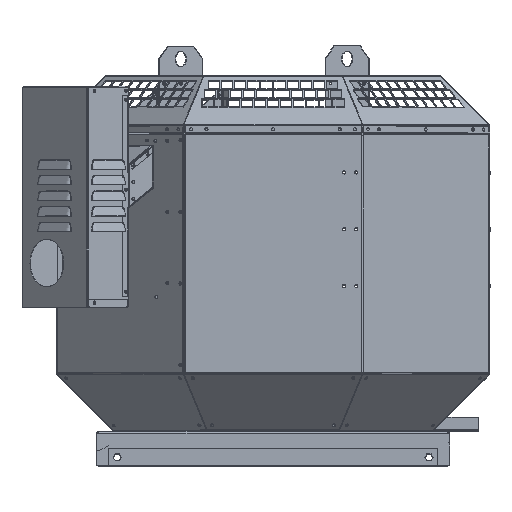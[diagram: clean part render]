
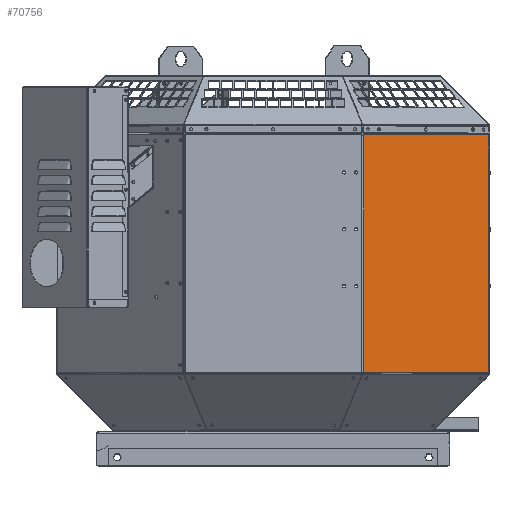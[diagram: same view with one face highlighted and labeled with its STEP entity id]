
A CAD part, top view. The second image highlights one B-rep face of the part: STEP entity #70756.
In plain terms, the highlighted planar face has unit normal (0.707, 0, 0.707).
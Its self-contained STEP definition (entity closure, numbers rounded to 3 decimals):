
#588 = FACE_OUTER_BOUND ( 'NONE', #69426, .T. ) ;
#1300 = CARTESIAN_POINT ( 'NONE',  ( 283.563, 422.402, 118.781 ) ) ;
#3228 = EDGE_CURVE ( 'NONE', #79659, #5971, #84125, .T. ) ;
#5442 = DIRECTION ( 'NONE',  ( 0., -1., 0. ) ) ;
#5971 = VERTEX_POINT ( 'NONE', #67324 ) ;
#6068 = PLANE ( 'NONE',  #79792 ) ;
#6882 = LINE ( 'NONE', #20436, #61784 ) ;
#6914 = EDGE_CURVE ( 'NONE', #39032, #79659, #77638, .T. ) ;
#8099 = CARTESIAN_POINT ( 'NONE',  ( 119.099, 408.402, 283.245 ) ) ;
#8659 = DIRECTION ( 'NONE',  ( -0.707, 0., 0.707 ) ) ;
#10214 = CARTESIAN_POINT ( 'NONE',  ( 283.245, 408.402, 119.099 ) ) ;
#13060 = DIRECTION ( 'NONE',  ( 0., 1., 0. ) ) ;
#14270 = ORIENTED_EDGE ( 'NONE', *, *, #3228, .T. ) ;
#16476 = EDGE_CURVE ( 'NONE', #88550, #36376, #27978, .T. ) ;
#16878 = DIRECTION ( 'NONE',  ( 0.707, 0., -0.707 ) ) ;
#20436 = CARTESIAN_POINT ( 'NONE',  ( 119.099, 422.402, 283.245 ) ) ;
#21059 = CARTESIAN_POINT ( 'NONE',  ( 284.207, 422.402, 118.137 ) ) ;
#22633 = VECTOR ( 'NONE', #54974, 1000. ) ;
#25172 = CARTESIAN_POINT ( 'NONE',  ( 283.563, 408.402, 118.781 ) ) ;
#25640 = VECTOR ( 'NONE', #57811, 1000. ) ;
#27735 = ORIENTED_EDGE ( 'NONE', *, *, #96748, .F. ) ;
#27828 = LINE ( 'NONE', #8099, #45352 ) ;
#27978 = LINE ( 'NONE', #72905, #25640 ) ;
#28556 = DIRECTION ( 'NONE',  ( 0.707, 0., -0.707 ) ) ;
#29386 = EDGE_CURVE ( 'NONE', #39032, #36609, #76614, .T. ) ;
#30475 = VECTOR ( 'NONE', #8659, 1000. ) ;
#33573 = EDGE_CURVE ( 'NONE', #36609, #36376, #93449, .T. ) ;
#34921 = EDGE_CURVE ( 'NONE', #69259, #88550, #27828, .T. ) ;
#36376 = VERTEX_POINT ( 'NONE', #68658 ) ;
#36609 = VERTEX_POINT ( 'NONE', #55888 ) ;
#36792 = VECTOR ( 'NONE', #45983, 1000. ) ;
#39032 = VERTEX_POINT ( 'NONE', #25172 ) ;
#39558 = CARTESIAN_POINT ( 'NONE',  ( 119.099, 410.409, 283.245 ) ) ;
#44175 = LINE ( 'NONE', #54133, #81579 ) ;
#45352 = VECTOR ( 'NONE', #90391, 1000. ) ;
#45863 = CARTESIAN_POINT ( 'NONE',  ( 284.207, 97.802, 118.137 ) ) ;
#45983 = DIRECTION ( 'NONE',  ( 0., -1., 0. ) ) ;
#47718 = CARTESIAN_POINT ( 'NONE',  ( 283.245, 408.402, 119.099 ) ) ;
#50825 = EDGE_CURVE ( 'NONE', #74172, #69259, #6882, .T. ) ;
#54133 = CARTESIAN_POINT ( 'NONE',  ( 284.207, 410.409, 118.137 ) ) ;
#54974 = DIRECTION ( 'NONE',  ( -0.707, 0., 0.707 ) ) ;
#55888 = CARTESIAN_POINT ( 'NONE',  ( 283.563, 97.802, 118.781 ) ) ;
#57811 = DIRECTION ( 'NONE',  ( 0., -1., 0. ) ) ;
#59964 = ORIENTED_EDGE ( 'NONE', *, *, #6914, .T. ) ;
#61784 = VECTOR ( 'NONE', #5442, 1000. ) ;
#64270 = VECTOR ( 'NONE', #13060, 1000. ) ;
#65212 = ORIENTED_EDGE ( 'NONE', *, *, #29386, .F. ) ;
#67324 = CARTESIAN_POINT ( 'NONE',  ( 283.245, 410.409, 119.099 ) ) ;
#68658 = CARTESIAN_POINT ( 'NONE',  ( 118.781, 97.802, 283.563 ) ) ;
#69259 = VERTEX_POINT ( 'NONE', #75570 ) ;
#69426 = EDGE_LOOP ( 'NONE', ( #27735, #95162, #73347, #87432, #83036, #65212, #59964, #14270 ) ) ;
#69546 = CARTESIAN_POINT ( 'NONE',  ( 118.781, 408.402, 283.563 ) ) ;
#70756 = ADVANCED_FACE ( 'NONE', ( #588 ), #6068, .T. ) ;
#72905 = CARTESIAN_POINT ( 'NONE',  ( 118.781, 422.402, 283.563 ) ) ;
#72925 = CARTESIAN_POINT ( 'NONE',  ( 283.245, 422.402, 119.099 ) ) ;
#73347 = ORIENTED_EDGE ( 'NONE', *, *, #34921, .T. ) ;
#73398 = DIRECTION ( 'NONE',  ( 0.707, 0., 0.707 ) ) ;
#74172 = VERTEX_POINT ( 'NONE', #39558 ) ;
#75570 = CARTESIAN_POINT ( 'NONE',  ( 119.099, 408.402, 283.245 ) ) ;
#76614 = LINE ( 'NONE', #1300, #36792 ) ;
#77638 = LINE ( 'NONE', #10214, #22633 ) ;
#79659 = VERTEX_POINT ( 'NONE', #47718 ) ;
#79792 = AXIS2_PLACEMENT_3D ( 'NONE', #21059, #73398, #28556 ) ;
#81579 = VECTOR ( 'NONE', #16878, 1000. ) ;
#83036 = ORIENTED_EDGE ( 'NONE', *, *, #33573, .F. ) ;
#84125 = LINE ( 'NONE', #72925, #64270 ) ;
#87432 = ORIENTED_EDGE ( 'NONE', *, *, #16476, .T. ) ;
#88550 = VERTEX_POINT ( 'NONE', #69546 ) ;
#90391 = DIRECTION ( 'NONE',  ( -0.707, 0., 0.707 ) ) ;
#93449 = LINE ( 'NONE', #45863, #30475 ) ;
#95162 = ORIENTED_EDGE ( 'NONE', *, *, #50825, .T. ) ;
#96748 = EDGE_CURVE ( 'NONE', #74172, #5971, #44175, .T. ) ;
